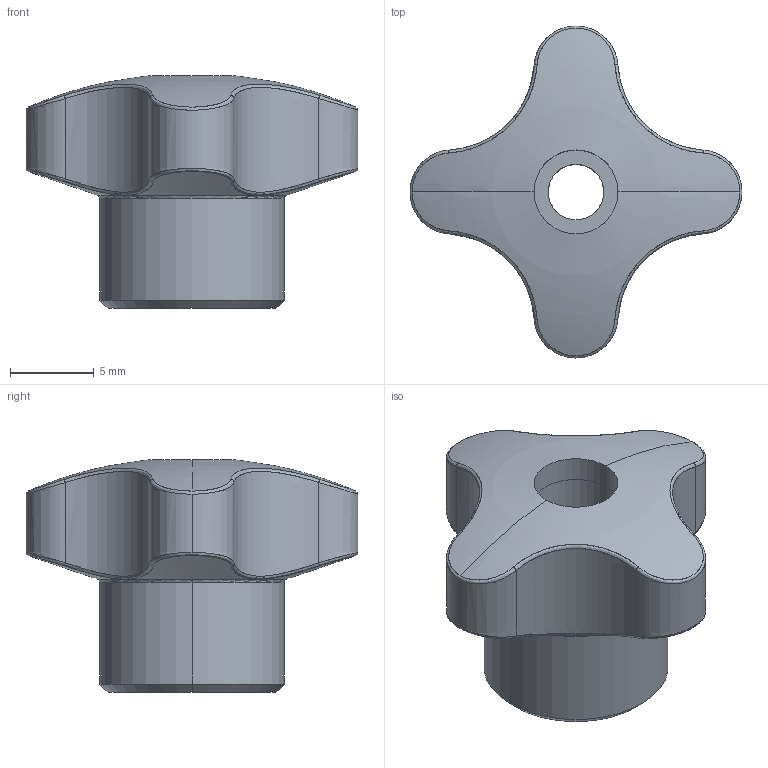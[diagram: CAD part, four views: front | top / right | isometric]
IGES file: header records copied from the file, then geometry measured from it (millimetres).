
Start section: SolidWorks IGES file using analytic representation for surfaces
Global section: file name: C:\Users\Marc\Documents\2 ENGINYERIA\Catalogo 3D\IGS STEP DXF\1121 20 401.IGS; native system: SolidWorks 2010; preprocessor: SolidWorks 2010; author: Marc; date: 101126.163613; units: millimetre
Bounding box: 19.77 x 19.77 x 13.87 mm (x, y, z)
Surface area: 1640.2 mm2 (no closed solid volume)
Topology: 0 solids, 0 shells, 63 faces, 725 edges, 725 vertices
Faces by surface type: revolution 34, bspline 29
